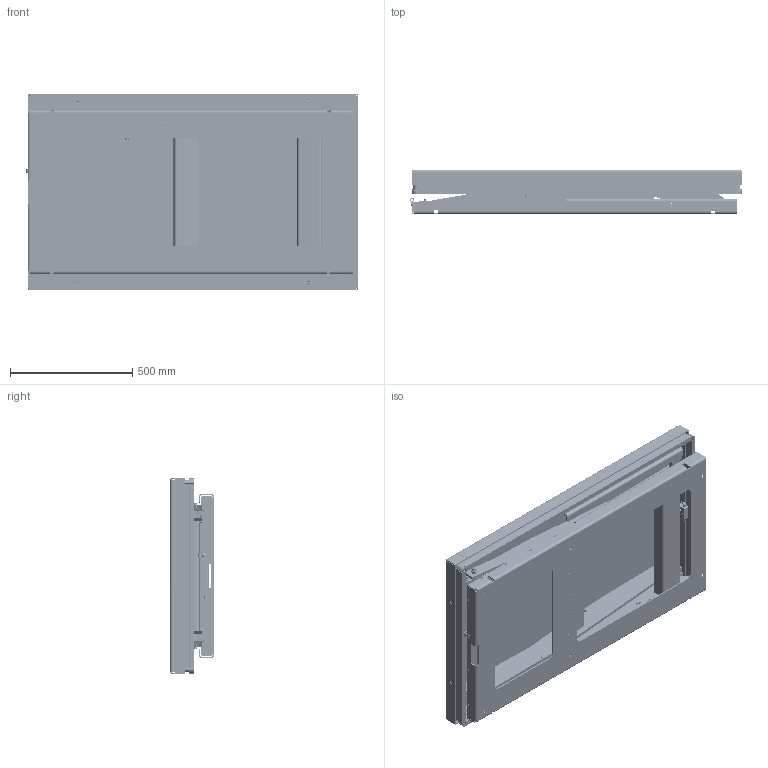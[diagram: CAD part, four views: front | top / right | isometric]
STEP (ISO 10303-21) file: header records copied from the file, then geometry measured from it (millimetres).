
FILE_DESCRIPTION(/* description */ ('TL 1000H'),/* implementation_level */ '2;1');
FILE_NAME(/* name */ 'C:\Autodesk_VaultWork\Ritningar\Exporterade modeller\TL 1000H - (613230)\613230_closed_height.stp',/* time_stamp */ '2018-03-20T14:26:32+01:00',/* author */ ('HANVI'),/* organization */ (''),/* preprocessor_version */ 'ST-DEVELOPER v16.5',/* originating_system */ 'Autodesk Inventor 2017',/* authorisation */ '');
FILE_SCHEMA (('AUTOMOTIVE_DESIGN { 1 0 10303 214 3 1 1 }'));
Products named in the file (75): 613230; 613263; 613264; 613273; 613261; 613277; 83212; 42394; 613262; 613274; 613265; 42289-1305; 42289-755; 43481; 42330; 33990; 33991; 44283; 44280; 44279; Compression-Spring-SF-TF1272-SS1774-04-Lesjofors-STEP; ISO 7089 - 5 - 140 HV; 84253; 44281; 44281-1; ISO 2009 - M4 x 12; 84076; 83928; 44277; 44278; 33992; ISO 7380 - M4 x 10; 611843; 83552; 83207; 85799; 85232; 85240; 84088; 43998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
Assembly tree (142 placements, depth 5):
  613230
    613263
      613264
      613273
    613261
      613277  x2
      83212  x4
      42394  x2
      613262
      613274
    613265
      42289-1305  x2
      42289-755  x2
      43481  x4
      42330  x4
      33990  x2
        33991
        44283
        44280
        44279
        Compression-Spring-SF-TF1272-SS1774-04-Lesjofors-STEP
        ISO 7089 - 5 - 140 HV
        84253
        44281
          44281-1
          ISO 2009 - M4 x 12
        84076
        83928
        44277
        44278
        33992
        ISO 7380 - M4 x 10
      611843  x4
      83552  x4
    83207  x4
    85799
    85232
    85240  x2
    84088
    43998
      44721-1
      44721-2
    32707-10  x2
    32708  x2
    84400  x2
    33269  x2
    36604  x2
    84210  x2
    83245  x2
    84006  x2
    605342  x2
    613266
      613267
        - 446
        613271  x2
        44457  x2
        82536 - 514
        613278
      613268
        82154 - 530
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Bounding box: 1356.59 x 180 x 800.2 mm (x, y, z)
Volume: 21365240.6 mm3; surface area: 7967121.1 mm2
Topology: 156 solids, 156 shells, 5687 faces, 14679 edges, 9457 vertices
Faces by surface type: plane 2863, cylinder 1568, cone 583, bspline 406, torus 258, sphere 9
Full cylindrical faces by diameter (mm): 0.474 x2, 1 x4, 2.3 x4, 3 x4, 3.141 x4, 3.2 x4, 3.242 x4, 4 x14, 4.3 x4, 4.445 x4, 4.7 x32, 4.9 x2, 4.917 x1, 5 x4, 5.1 x8, 5.156 x4, 5.2 x6, 5.3 x4, 5.6 x8, 5.969 x4, 6 x21, 6.4 x2, 6.6 x8, 6.647 x4, 6.7 x5, 6.8 x6, 7.4 x2, 7.6 x4, 8 x10, 8.5 x4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
Entity records: 89965 total; most frequent: CARTESIAN_POINT 22286, DIRECTION 13648, ORIENTED_EDGE 13350, EDGE_CURVE 6674, AXIS2_PLACEMENT_3D 4763, VERTEX_POINT 4421, LINE 4122, VECTOR 4122
